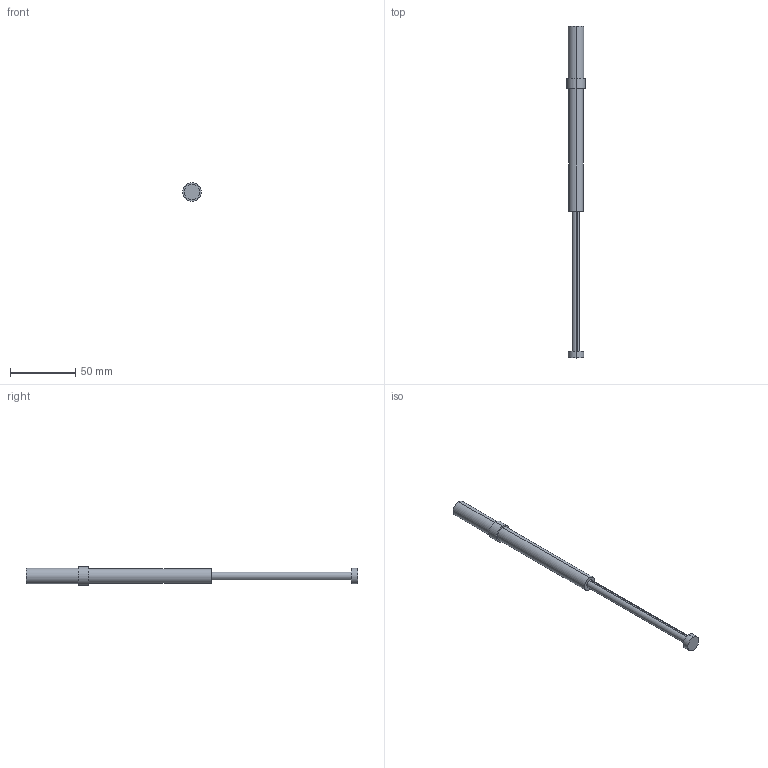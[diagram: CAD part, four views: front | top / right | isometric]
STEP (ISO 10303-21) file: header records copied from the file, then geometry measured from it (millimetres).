
FILE_DESCRIPTION (( 'STEP AP203' ), '1' );
FILE_NAME ('PS082250_.STEP', '2014-10-21T07:01:26', ( '' ), ( '' ), 'SwSTEP 2.0', 'SolidWorks 2014', '' );
FILE_SCHEMA (( 'CONFIG_CONTROL_DESIGN' ));
Length unit declared in the file: millimetre
Products named in the file (1): PS082250_
Bounding box: 14.2 x 255 x 14.2 mm (x, y, z)
Volume: 19247.9 mm3; surface area: 8043.7 mm2
Topology: 1 solids, 1 shells, 20 faces, 42 edges, 28 vertices
Faces by surface type: cylinder 11, plane 9
Entity records: 625 total; most frequent: DIRECTION 106, CARTESIAN_POINT 91, ORIENTED_EDGE 84, AXIS2_PLACEMENT_3D 43, EDGE_CURVE 42, VERTEX_POINT 28, EDGE_LOOP 24, CIRCLE 22
